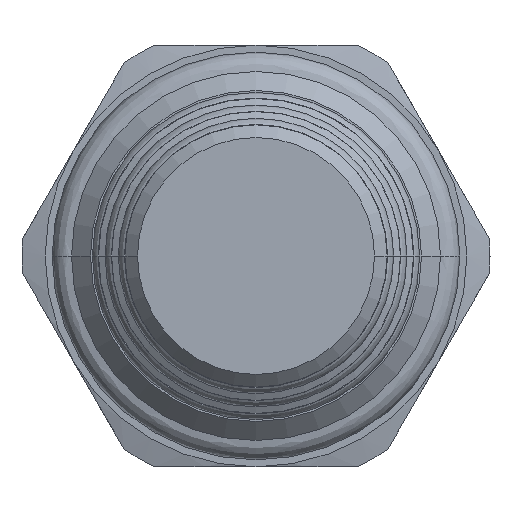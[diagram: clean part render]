
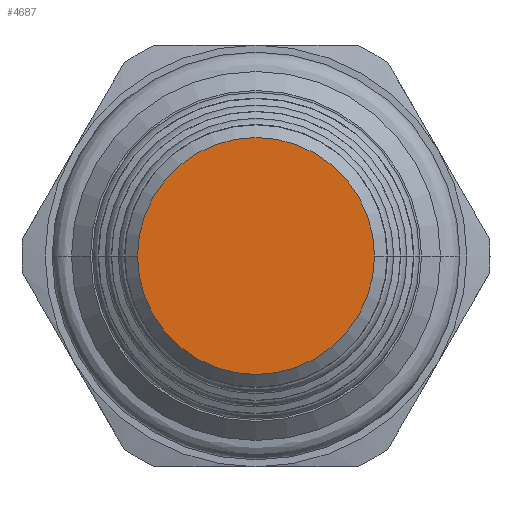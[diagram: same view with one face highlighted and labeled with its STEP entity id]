
A CAD part, front view. The second image highlights one B-rep face of the part: STEP entity #4687.
In plain terms, the highlighted planar face has unit normal (0, -1, 0).
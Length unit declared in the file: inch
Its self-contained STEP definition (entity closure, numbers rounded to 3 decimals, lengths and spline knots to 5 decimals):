
#1845=CARTESIAN_POINT('',(0.,-2.438,0.));
#1846=DIRECTION('',(0.,-1.,0.));
#1847=DIRECTION('',(1.,0.,0.));
#1848=AXIS2_PLACEMENT_3D('',#1845,#1846,#1847);
#1859=CARTESIAN_POINT('',(0.,-2.438,0.));
#1860=DIRECTION('',(0.,1.,0.));
#1861=DIRECTION('',(1.,0.,0.));
#1862=AXIS2_PLACEMENT_3D('',#1859,#1860,#1861);
#1938=CARTESIAN_POINT('',(0.281,-2.438,0.));
#1939=CARTESIAN_POINT('',(-0.281,-2.438,0.));
#1940=VERTEX_POINT('',#1938);
#1941=VERTEX_POINT('',#1939);
#4678=CARTESIAN_POINT('',(0.,-2.438,0.));
#4679=DIRECTION('',(0.,-1.,0.));
#4680=DIRECTION('',(0.,0.,-1.));
#4681=AXIS2_PLACEMENT_3D('',#4678,#4679,#4680);
#4682=PLANE('',#4681);
#4683=ORIENTED_EDGE('',*,*,#4658,.F.);
#4684=ORIENTED_EDGE('',*,*,#4672,.T.);
#4685=EDGE_LOOP('',(#4683,#4684));
#4686=FACE_OUTER_BOUND('',#4685,.F.);
#4687=ADVANCED_FACE('',(#4686),#4682,.T.);
#1849=CIRCLE('',#1848,0.281);
#1863=CIRCLE('',#1862,0.281);
#4658=EDGE_CURVE('',#1940,#1941,#1849,.T.);
#4672=EDGE_CURVE('',#1940,#1941,#1863,.T.);
